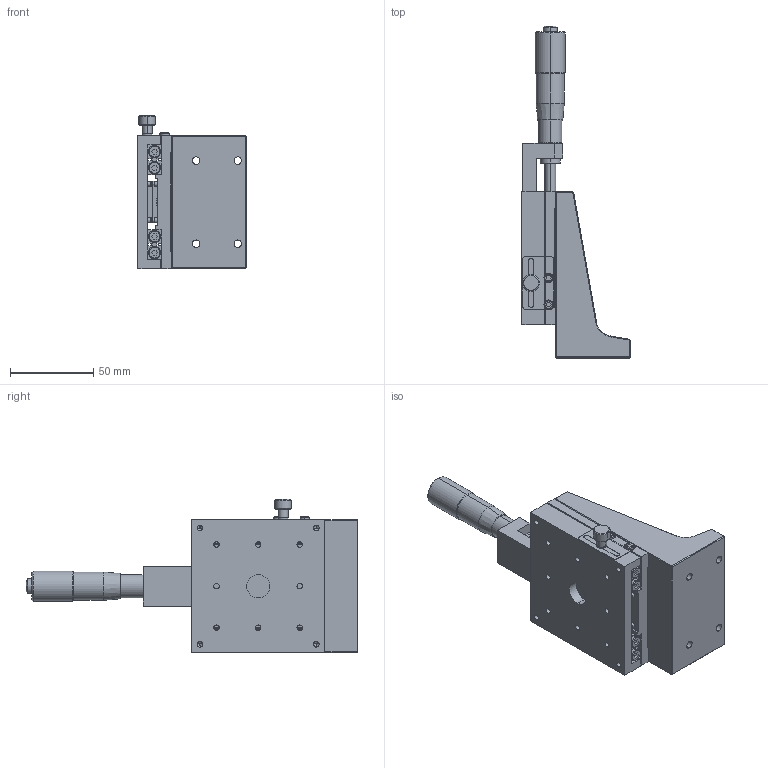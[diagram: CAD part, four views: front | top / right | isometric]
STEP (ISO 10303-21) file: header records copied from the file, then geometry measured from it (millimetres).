
FILE_DESCRIPTION (( 'STEP AP203' ), '1' );
FILE_NAME ('MZL80-ACR.STEP', '2008-08-02T04:51:47', ( '陳志豪' ), ( '高明鐵企業股份有限公司' ), 'SwSTEP 2.0', 'SolidWorks 2007', '' );
FILE_SCHEMA (( 'CONFIG_CONTROL_DESIGN' ));
Length unit declared in the file: millimetre
Products named in the file (1): MZL80-ACR
Bounding box: 65 x 199.5 x 92.2 mm (x, y, z)
Volume: 239258.8 mm3; surface area: 84411.4 mm2
Topology: 12 solids, 12 shells, 884 faces, 2258 edges, 1461 vertices
Faces by surface type: plane 498, cylinder 213, bspline 107, cone 66
Entity records: 32805 total; most frequent: CARTESIAN_POINT 11665, ORIENTED_EDGE 4484, DIRECTION 4034, EDGE_CURVE 2242, VECTOR 1502, LINE 1502, VERTEX_POINT 1461, AXIS2_PLACEMENT_3D 1266
